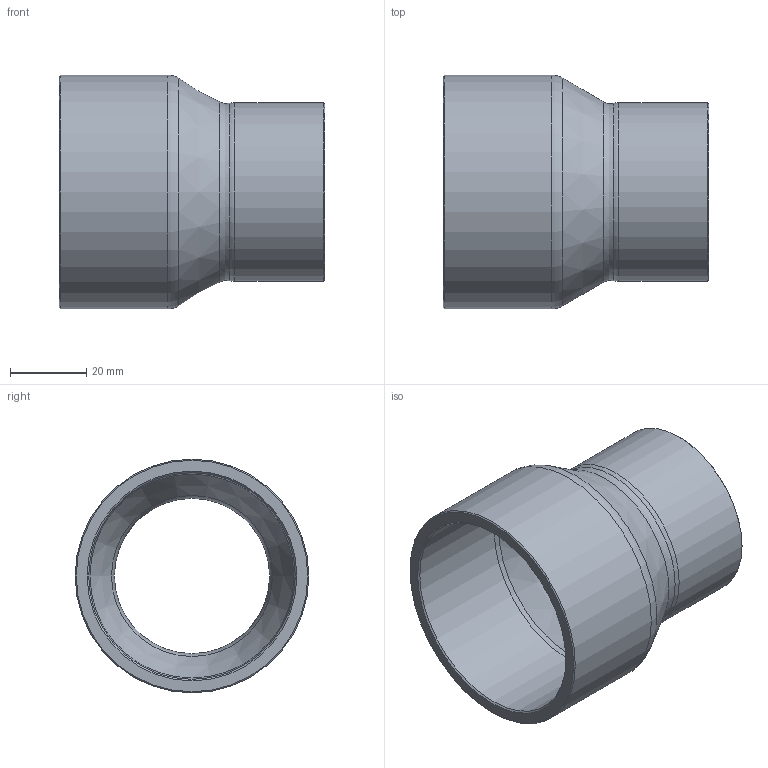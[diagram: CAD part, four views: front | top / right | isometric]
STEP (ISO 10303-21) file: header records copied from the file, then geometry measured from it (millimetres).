
FILE_DESCRIPTION((''),'2;1');
FILE_NAME('G:\SANHA-Ternat\Technik\Management\Bouwmaten + markeringen\z-maattekeningen 3D\29000s\29240218158_3d.stp','2018-12-05T15:14:07',('vdvijverd'),(''),'Autodesk Inventor 2009','Autodesk Inventor 2009','');
FILE_SCHEMA(('AUTOMOTIVE_DESIGN { 1 0 10303 214 1 1 1 1 }'));
Length unit declared in the file: millimetre
Products named in the file (1): 29240218158_3d
Bounding box: 69.6 x 61.26 x 61.26 mm (x, y, z)
Volume: 36832.8 mm3; surface area: 23774.9 mm2
Topology: 1 solids, 1 shells, 18 faces, 34 edges, 18 vertices
Faces by surface type: cone 6, cylinder 4, torus 3, bspline 3, plane 2
Full cylindrical faces by diameter (mm): 41.455 x1, 46.855 x1, 54.155 x1, 61.255 x1
Entity records: 532 total; most frequent: CARTESIAN_POINT 205, DIRECTION 68, ORIENTED_EDGE 36, EDGE_LOOP 36, AXIS2_PLACEMENT_3D 34, VERTEX_POINT 18, CIRCLE 18, EDGE_CURVE 18
